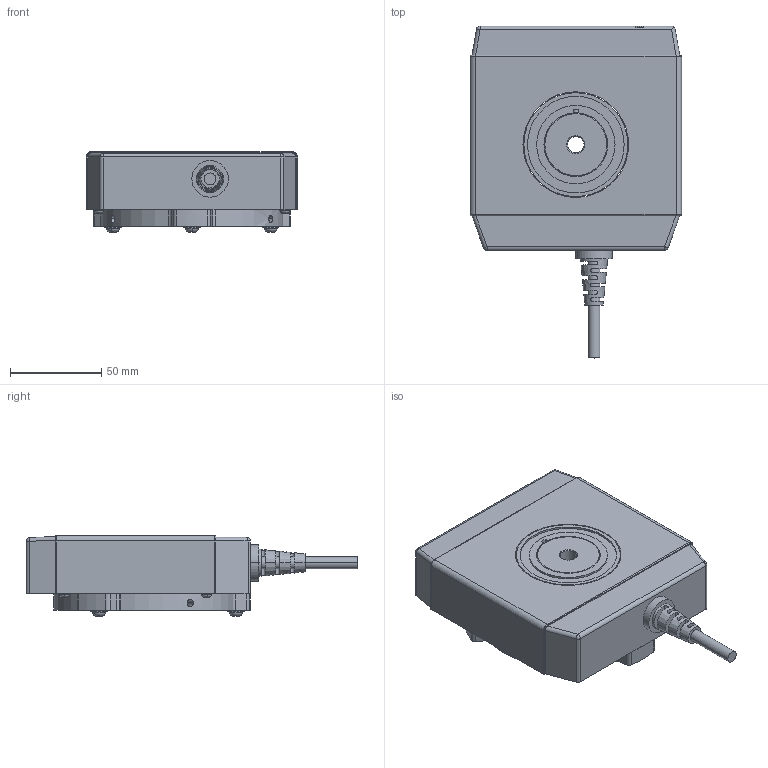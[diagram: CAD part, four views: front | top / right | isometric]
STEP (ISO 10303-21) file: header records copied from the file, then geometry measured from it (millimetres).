
FILE_DESCRIPTION (( 'STEP AP214' ), '1' );
FILE_NAME ('CLR-300A_CLR-600A_Assem1.STEP', '2024-07-19T03:57:42', ( '' ), ( '' ), 'SwSTEP 2.0', 'SolidWorks 2023', '' );
FILE_SCHEMA (( 'AUTOMOTIVE_DESIGN' ));
Length unit declared in the file: millimetre
Products named in the file (7): CLR-300A_CLR-600A_Part1; SCREW M3 X6 MM; SCREW M4 X15 MM; CLR-300A_CLR-600A_Part3; ワッシャ M4; CLR-300A_CLR-600A_Assem1; CLR-300A_CLR-600A_Part2
Assembly tree (13 placements, depth 2):
  CLR-300A_CLR-600A_Assem1
    CLR-300A_CLR-600A_Part1
    CLR-300A_CLR-600A_Part2
    CLR-300A_CLR-600A_Part3
    SCREW M3 X6 MM  x4
    SCREW M4 X15 MM  x3
    ワッシャ M4  x3
Bounding box: 116.2 x 182.1 x 44.4 mm (x, y, z)
Volume: 463962.4 mm3; surface area: 72375.3 mm2
Topology: 15 solids, 15 shells, 611 faces, 1625 edges, 1092 vertices
Faces by surface type: plane 379, cylinder 145, cone 38, bspline 28, torus 18, sphere 3
Entity records: 16271 total; most frequent: CARTESIAN_POINT 3945, ORIENTED_EDGE 2526, DIRECTION 2434, EDGE_CURVE 1263, LINE 896, VECTOR 896, VERTEX_POINT 838, AXIS2_PLACEMENT_3D 769
